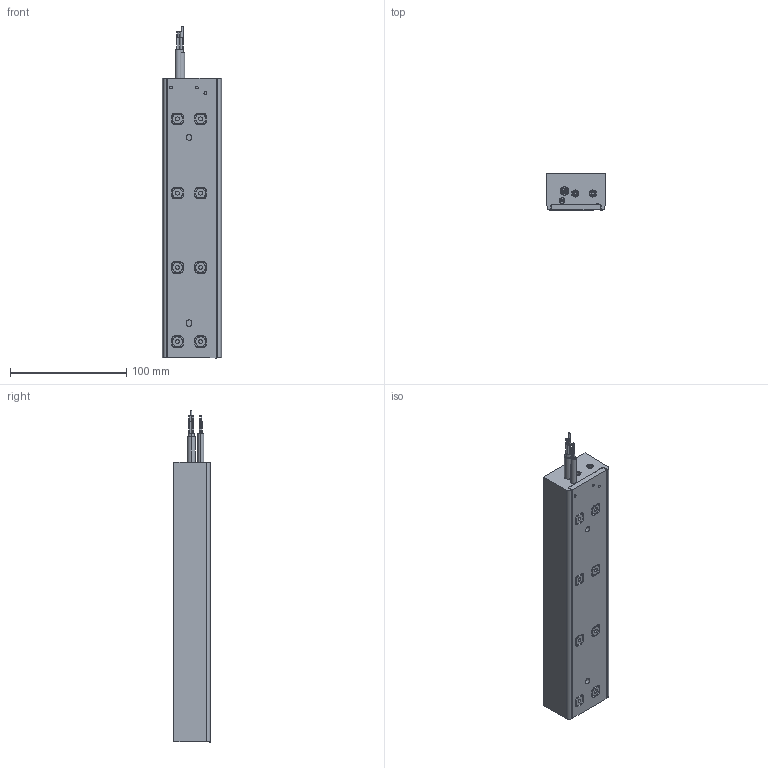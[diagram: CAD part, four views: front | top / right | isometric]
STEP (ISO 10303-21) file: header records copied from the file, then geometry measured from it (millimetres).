
FILE_DESCRIPTION (( 'STEP AP203' ), '1' );
FILE_NAME ('IC12-50 assembly 3D.STEP', '2020-10-22T05:56:56', ( '' ), ( '' ), 'SwSTEP 2.0', 'SolidWorks 2018', '' );
FILE_SCHEMA (( 'CONFIG_CONTROL_DESIGN' ));
Length unit declared in the file: millimetre
Products named in the file (7): M3 nut hall module for 3D CU; IC-50 dovetail rounded; power cable IC50 3D; IC12-50 resin test; sensor cable 3D; IC12-50 housing; IC12-50 assembly 3D
Assembly tree (10 placements, depth 2):
  IC12-50 assembly 3D
    IC12-50 housing
    IC-50 dovetail rounded  x4
    IC12-50 resin test
    power cable IC50 3D
    sensor cable 3D
    M3 nut hall module for 3D CU  x2
Bounding box: 50.93 x 31.28 x 286 mm (x, y, z)
Volume: 380585.5 mm3; surface area: 76826.7 mm2
Topology: 11 solids, 11 shells, 611 faces, 1656 edges, 1070 vertices
Faces by surface type: plane 296, cylinder 277, torus 26, sphere 12
Entity records: 14872 total; most frequent: CARTESIAN_POINT 3129, DIRECTION 2329, ORIENTED_EDGE 2280, EDGE_CURVE 1140, AXIS2_PLACEMENT_3D 834, VERTEX_POINT 746, LINE 661, VECTOR 661
